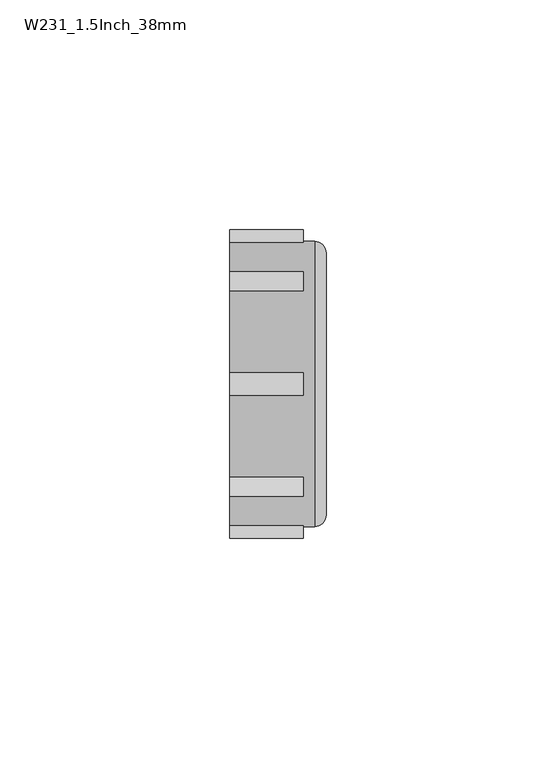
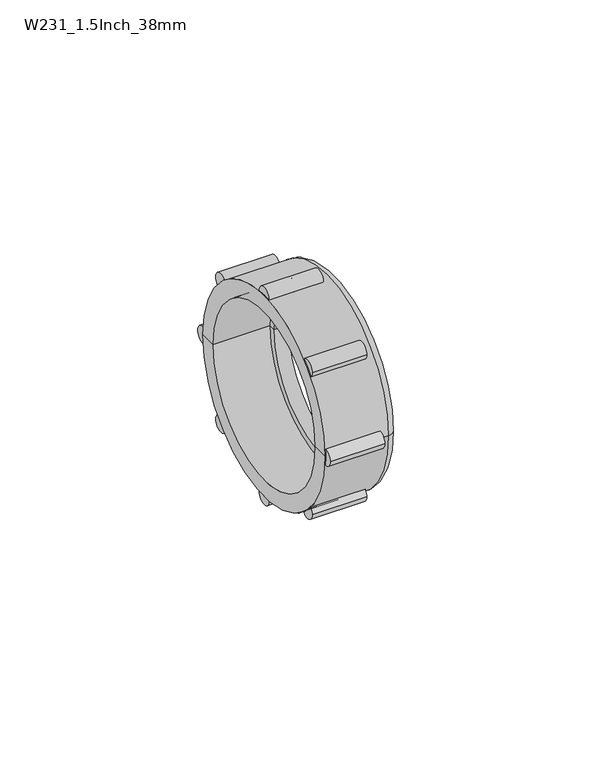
"""IFC4 building model written with IfcOpenShell, lengths in millimetres: pipe fitting geometry, Durapipe_PipeFitting_VulcatheneMechanical_Nut_W23 : W231_1.5Inch_38mm."""

from ifc_helpers import new_model, si_unit, point, frame, frame_2d, origin, place, context, project, spatial, polyline, circle_curve, ellipse_curve, trimmed, segment, composite_curve, outline, extrude, source, transform, mapped, element, save
from ifc_brep_helpers import plane_surface, cylinder_surface, revolved_surface, advanced_brep


def w231_1_5inch_38mm_eb1158d3(model_context):
    return source(origin(), model_context, "Body", "SolidModel", [
        advanced_brep(
        [(-10.45, 31.0, 0.0), (7.95, 31.0, 0.0), (7.95, -31.0, 0.0), (-10.45, -31.0, 0.0), (-10.45, 26.0, 0.0), (-10.45, -26.0, 0.0), (10.45, 28.5, 0.0), (10.45, 24.0, 0.0), (10.45, -24.0, 0.0), (10.45, -28.5, 0.0), (6.25, 26.0, 0.0), (6.25, -26.0, 0.0), (6.25, 24.0, 0.0), (6.25, -24.0, 0.0)],
        [
            (0, 1),
            (1, 2, circle_curve(frame((7.95, 0.0, 0.0), z_axis=(-1.0, 0.0, 0.0), x_axis=(0.0, -1.0, 0.0)), 31.0)),
            (2, 3),
            (3, 0, circle_curve(frame((-10.45, 0.0, 0.0), z_axis=(1.0, 0.0, 0.0), x_axis=(0.0, -1.0, 0.0)), 31.0)),
            (2, 1, circle_curve(frame((7.95, 0.0, 0.0), z_axis=(-1.0, 0.0, 0.0), x_axis=(0.0, -1.0, 0.0)), 31.0)),
            (0, 3, circle_curve(frame((-10.45, 0.0, 0.0), z_axis=(1.0, 0.0, 0.0), x_axis=(0.0, -1.0, 0.0)), 31.0)),
            (4, 0),
            (3, 5),
            (5, 4, circle_curve(frame((-10.45, 0.0, 0.0), z_axis=(1.0, 0.0, 0.0), x_axis=(0.0, -1.0, 0.0)), 26.0)),
            (4, 5, circle_curve(frame((-10.45, 0.0, 0.0), z_axis=(1.0, 0.0, 0.0), x_axis=(0.0, -1.0, 0.0)), 26.0)),
            (6, 7),
            (7, 8, circle_curve(frame((10.45, 0.0, 0.0), z_axis=(-1.0, 0.0, 0.0), x_axis=(0.0, -1.0, 0.0)), 24.0)),
            (8, 9),
            (9, 6, circle_curve(frame((10.45, 0.0, 0.0), z_axis=(1.0, 0.0, 0.0), x_axis=(0.0, -1.0, 0.0)), 28.5)),
            (8, 7, circle_curve(frame((10.45, 0.0, 0.0), z_axis=(-1.0, 0.0, 0.0), x_axis=(0.0, -1.0, 0.0)), 24.0)),
            (6, 9, circle_curve(frame((10.45, 0.0, 0.0), z_axis=(1.0, 0.0, 0.0), x_axis=(0.0, -1.0, 0.0)), 28.5)),
            (1, 6, circle_curve(frame((7.95, 28.5, 0.0), z_axis=(0.0, 0.0, -1.0), x_axis=(1.0, 0.0, 0.0)), 2.5)),
            (9, 2, circle_curve(frame((7.95, -28.5, 0.0), z_axis=(0.0, 0.0, -1.0), x_axis=(1.0, 0.0, 0.0)), 2.5)),
            (10, 4),
            (5, 11),
            (11, 10, circle_curve(frame((6.25, 0.0, 0.0), z_axis=(1.0, 0.0, 0.0), x_axis=(0.0, -1.0, 0.0)), 26.0)),
            (10, 11, circle_curve(frame((6.25, 0.0, 0.0), z_axis=(1.0, 0.0, 0.0), x_axis=(0.0, -1.0, 0.0)), 26.0)),
            (12, 10),
            (11, 13),
            (13, 12, circle_curve(frame((6.25, 0.0, 0.0), z_axis=(1.0, 0.0, 0.0), x_axis=(0.0, -1.0, 0.0)), 24.0)),
            (12, 13, circle_curve(frame((6.25, 0.0, 0.0), z_axis=(1.0, 0.0, 0.0), x_axis=(0.0, -1.0, 0.0)), 24.0)),
            (7, 12),
            (13, 8),
        ],
        [
            cylinder_surface(frame((1571.2518184, 0.0, 0.0), z_axis=(-1.0, 0.0, 0.0), x_axis=(0.0, -1.0, 0.0)), 31.0),
            plane_surface(frame((-10.45, 0.0, 0.0), z_axis=(-1.0, 0.0, 0.0), x_axis=(0.0, -1.0, 0.0))),
            plane_surface(frame((10.45, 0.0, 0.0), z_axis=(1.0, 0.0, 0.0), x_axis=(0.0, -1.0, 0.0))),
            revolved_surface(trimmed(ellipse_curve(frame((7.95, -28.5, 0.0), z_axis=(0.0, 0.0, -1.0), x_axis=(1.0, 0.0, 0.0)), 2.5, 2.5), [point((10.45, -28.5, 0.0))], [point((7.95, -31.0, 0.0))], True, "CARTESIAN"), (1571.2518184, 0.0, 0.0), (-1.0, 0.0, 0.0)),
            revolved_surface(polyline([(-10.450000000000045, -26.0, 0.0), (6.25, -26.0, 0.0)]), (1571.2518184, 0.0, 0.0), (-1.0, 0.0, 0.0)),
            plane_surface(frame((6.25, 0.0, 0.0), z_axis=(-1.0, 0.0, 0.0), x_axis=(0.0, -1.0, 0.0))),
            revolved_surface(polyline([(6.25, -24.0, 0.0), (10.450000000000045, -24.0, 0.0)]), (1571.2518184, 0.0, 0.0), (-1.0, 0.0, 0.0)),
        ],
        [
            (0, [[1, 2, 3, 4]]),
            (0, [[-3, 5, -1, 6]]),
            (1, [[7, -4, 8, 9]]),
            (1, [[-8, -6, -7, 10]]),
            (2, [[11, 12, 13, 14]]),
            (2, [[-13, 15, -11, 16]]),
            (3, [[17, -14, 18, -2]]),
            (3, [[-18, -16, -17, -5]]),
            (4, [[19, -9, 20, 21]]),
            (4, [[-20, -10, -19, 22]]),
            (5, [[23, -21, 24, 25]]),
            (5, [[-24, -22, -23, 26]]),
            (6, [[27, -25, 28, -12]]),
            (6, [[-28, -26, -27, -15]]),
        ],
    ),
        extrude(outline(composite_curve([segment(trimmed(circle_curve(frame_2d((0.0, 31.0)), 2.5), [point((2.5, 31.0))], [point((-2.5, 31.0))], False, "CARTESIAN"), True, "CONTINUOUS"), segment(trimmed(circle_curve(frame_2d((0.0, 31.0)), 2.5), [point((-2.5, 31.0))], [point((2.5, 31.0))], False, "CARTESIAN"), True, "CONTINUOUS")], self_intersect=False)), frame((-10.45, 0.0, 0.0), z_axis=(1.0, 0.0, 0.0), x_axis=(0.0, 1.0, 0.0)), (0.0, 0.0, 1.0), 15.9),
        extrude(outline(composite_curve([segment(trimmed(circle_curve(frame_2d((-21.9203102, 21.9203102)), 2.5), [point((-19.4203102, 21.9203102))], [point((-24.4203102, 21.9203102))], False, "CARTESIAN"), True, "CONTINUOUS"), segment(trimmed(circle_curve(frame_2d((-21.9203102, 21.9203102)), 2.5), [point((-24.4203102, 21.9203102))], [point((-19.4203102, 21.9203102))], False, "CARTESIAN"), True, "CONTINUOUS")], self_intersect=False)), frame((-10.45, 0.0, 0.0), z_axis=(1.0, 0.0, 0.0), x_axis=(0.0, 1.0, 0.0)), (0.0, 0.0, 1.0), 15.9),
        extrude(outline(composite_curve([segment(trimmed(circle_curve(frame_2d((-31.0, 0.0)), 2.5), [point((-28.5, 0.0))], [point((-33.5, 0.0))], False, "CARTESIAN"), True, "CONTINUOUS"), segment(trimmed(circle_curve(frame_2d((-31.0, 0.0)), 2.5), [point((-33.5, 0.0))], [point((-28.5, 0.0))], False, "CARTESIAN"), True, "CONTINUOUS")], self_intersect=False)), frame((-10.45, 0.0, 0.0), z_axis=(1.0, 0.0, 0.0), x_axis=(0.0, 1.0, 0.0)), (0.0, 0.0, 1.0), 15.9),
        extrude(outline(composite_curve([segment(trimmed(circle_curve(frame_2d((-21.9203102, -21.9203102)), 2.5), [point((-19.4203102, -21.9203102))], [point((-24.4203102, -21.9203102))], False, "CARTESIAN"), True, "CONTINUOUS"), segment(trimmed(circle_curve(frame_2d((-21.9203102, -21.9203102)), 2.5), [point((-24.4203102, -21.9203102))], [point((-19.4203102, -21.9203102))], False, "CARTESIAN"), True, "CONTINUOUS")], self_intersect=False)), frame((-10.45, 0.0, 0.0), z_axis=(1.0, 0.0, 0.0), x_axis=(0.0, 1.0, 0.0)), (0.0, 0.0, 1.0), 15.9),
        extrude(outline(composite_curve([segment(trimmed(circle_curve(frame_2d((0.0, -31.0)), 2.5), [point((2.5, -31.0))], [point((-2.5, -31.0))], False, "CARTESIAN"), True, "CONTINUOUS"), segment(trimmed(circle_curve(frame_2d((0.0, -31.0)), 2.5), [point((-2.5, -31.0))], [point((2.5, -31.0))], False, "CARTESIAN"), True, "CONTINUOUS")], self_intersect=False)), frame((-10.45, 0.0, 0.0), z_axis=(1.0, 0.0, 0.0), x_axis=(0.0, 1.0, 0.0)), (0.0, 0.0, 1.0), 15.9),
        extrude(outline(composite_curve([segment(trimmed(circle_curve(frame_2d((21.9203102, -21.9203102)), 2.5), [point((24.4203102, -21.9203102))], [point((19.4203102, -21.9203102))], False, "CARTESIAN"), True, "CONTINUOUS"), segment(trimmed(circle_curve(frame_2d((21.9203102, -21.9203102)), 2.5), [point((19.4203102, -21.9203102))], [point((24.4203102, -21.9203102))], False, "CARTESIAN"), True, "CONTINUOUS")], self_intersect=False)), frame((-10.45, 0.0, 0.0), z_axis=(1.0, 0.0, 0.0), x_axis=(0.0, 1.0, 0.0)), (0.0, 0.0, 1.0), 15.9),
        extrude(outline(composite_curve([segment(trimmed(circle_curve(frame_2d((31.0, 0.0)), 2.5), [point((33.5, 0.0))], [point((28.5, 0.0))], False, "CARTESIAN"), True, "CONTINUOUS"), segment(trimmed(circle_curve(frame_2d((31.0, 0.0)), 2.5), [point((28.5, 0.0))], [point((33.5, 0.0))], False, "CARTESIAN"), True, "CONTINUOUS")], self_intersect=False)), frame((-10.45, 0.0, 0.0), z_axis=(1.0, 0.0, 0.0), x_axis=(0.0, 1.0, 0.0)), (0.0, 0.0, 1.0), 15.9),
        extrude(outline(composite_curve([segment(trimmed(circle_curve(frame_2d((21.9203102, 21.9203102)), 2.5), [point((24.4203102, 21.9203102))], [point((19.4203102, 21.9203102))], False, "CARTESIAN"), True, "CONTINUOUS"), segment(trimmed(circle_curve(frame_2d((21.9203102, 21.9203102)), 2.5), [point((19.4203102, 21.9203102))], [point((24.4203102, 21.9203102))], False, "CARTESIAN"), True, "CONTINUOUS")], self_intersect=False)), frame((-10.45, 0.0, 0.0), z_axis=(1.0, 0.0, 0.0), x_axis=(0.0, 1.0, 0.0)), (0.0, 0.0, 1.0), 15.9),
    ])


if __name__ == "__main__":
    model = new_model("IFC4")
    model_context = context("Model", 3, world=origin())
    ifc_project = project(units=[si_unit("LENGTHUNIT", "METRE", prefix="MILLI")], contexts=[model_context])
    site = spatial("IfcSite", under=ifc_project)
    building = spatial("IfcBuilding", under=site)
    placement = place(None, origin())
    w231_1_5inch_38mm_shape = w231_1_5inch_38mm_eb1158d3(model_context)
    element("IfcPipeFitting", 1, ObjectType="Durapipe_PipeFitting_VulcatheneMechanical_Nut_W23 : W231_1.5Inch_38mm", at=placement, inside=building, context=model_context, shape_type="MappedRepresentation", body=[
        mapped(w231_1_5inch_38mm_shape, transform((0.0, 0.0, 0.0), x_axis=(1.0, 0.0, 0.0), y_axis=(0.0, 1.0, 0.0), z_axis=(0.0, 0.0, 1.0))),
    ])
    save(model, "model.ifc")
